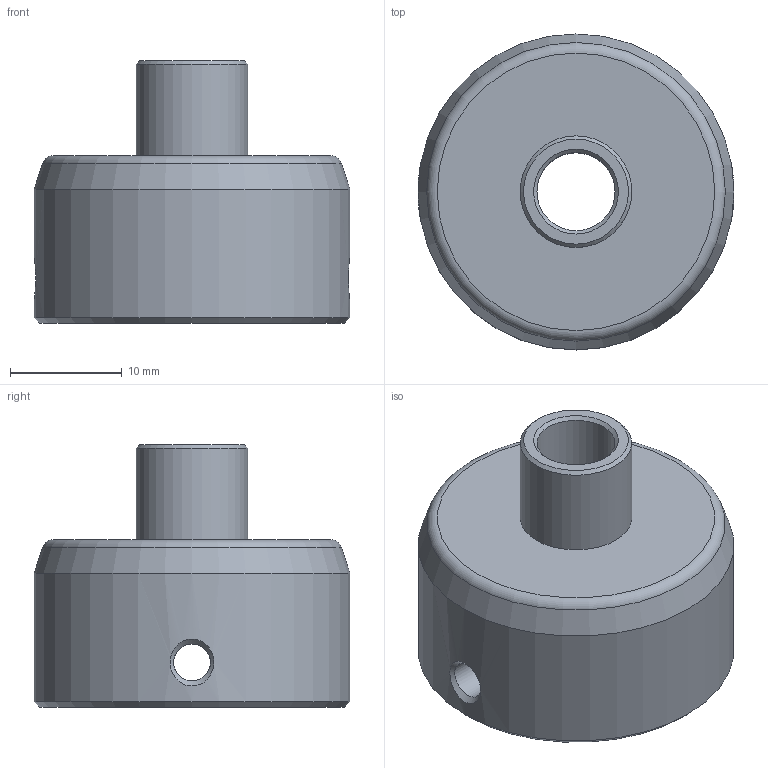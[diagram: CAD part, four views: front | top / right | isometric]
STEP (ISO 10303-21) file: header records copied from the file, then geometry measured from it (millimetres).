
FILE_DESCRIPTION(/* description */ (''),/* implementation_level */ '2;1');
FILE_NAME(/* name */ 'TRAYLOADER.105.stp',/* time_stamp */ '2025-05-13T11:07:26+02:00',/* author */ (''),/* organization */ (''),/* preprocessor_version */ 'ST-DEVELOPER v19.4',/* originating_system */ 'SIEMENS PLM Software NX2306.5001',/* authorisation */ '');
FILE_SCHEMA (('AP203_CONFIGURATION_CONTROLLED_3D_DESIGN_OF_MECHANICAL_PARTS_AND_ASSEMBLIES_MIM_LF { 1 0 10303 403 2 1 2}'));
Length unit declared in the file: millimetre
Products named in the file (1): TRAYLOADER.105_objects
Bounding box: 28.3 x 28.3 x 23.5 mm (x, y, z)
Volume: 6994.6 mm3; surface area: 3501.5 mm2
Topology: 1 solids, 1 shells, 19 faces, 45 edges, 28 vertices
Faces by surface type: cone 8, cylinder 6, plane 4, torus 1
Full cylindrical faces by diameter (mm): 3.3 x2, 7 x1, 10 x1, 19 x1, 28.3 x1
Entity records: 718 total; most frequent: CARTESIAN_POINT 290, DIRECTION 74, FACE_BOUND 42, EDGE_LOOP 42, ORIENTED_EDGE 42, AXIS2_PLACEMENT_3D 37, VERTEX_POINT 21, EDGE_CURVE 21
